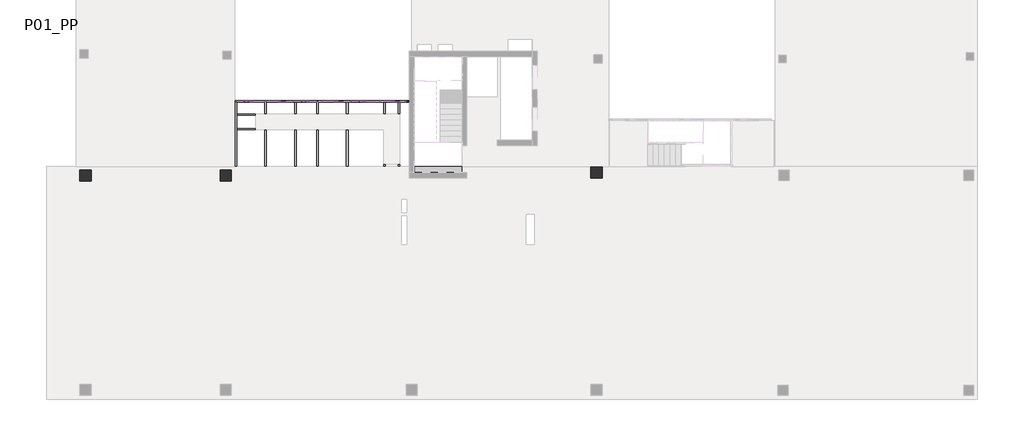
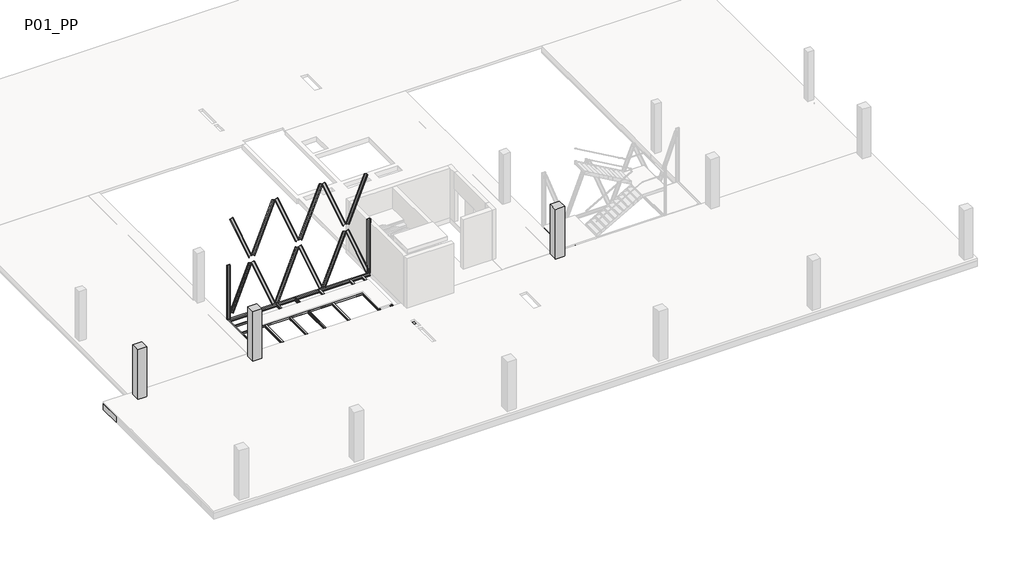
# One storey, part 2 of 8: 51 beams, 5 columns.
"""IFC4 building model written with IfcOpenShell, lengths in millimetres."""

from ifc_helpers import new_model, si_unit, frame, origin, place, context, project, spatial, polyline, circle_curve, outline, extrude, faceted_brep, transform, mapped, element, save
from ifc_brep_helpers import plane_surface, revolved_surface, advanced_brep
from components import ub_universal_beams_ipe_160x82_5295c27c, ub_universal_beams_ipe_160x82_633517aa, ub_universal_beams_ipe_200x100_3e5072df, ub_universal_beams_ipe_200x100_6cde27da, upn120x55_69f0bca1, upn120x55_efc8f615, upn120x55_2e91fe93, upn120x55_dd576345, upn120x55_d7d90911, upn200x75_a6df8eeb, upn200x75_22e62ea1, upn200x75_15f8b11e, upn200x75_1f64faac, upn200x75_e6c17937, upn200x75_5ddb06b6, upn200x75_7b6a578c, upn200x75_df23aae5, upn200x75_922ad74a, upn_200x75_fcc0ec56

model = new_model("IFC4")

# Units and contexts
model_context = context("Model", 3, world=origin())
ifc_project = project(units=[si_unit("LENGTHUNIT", "METRE", prefix="MILLI")], contexts=[model_context])

# Site, building, storey
site = spatial("IfcSite", under=ifc_project)
building = spatial("IfcBuilding", under=site)
storey = spatial("IfcBuildingStorey", under=building, Name="P01_PP", Elevation=11160.0)

# Beams
placement = place(None, origin())
element("IfcBeam", 1, ObjectType="M_Concrete-Rectangular Beam : 1500 x 550mm", at=placement, inside=storey, context=model_context, shape_type="AdvancedBrep", body=[
    advanced_brep(
    [(-10790.2146087, -4560.5861501, 11160.0), (-13390.3216429, -4560.5861501, 11160.0), (-13390.3216429, -4885.1039312, 11160.0), (-10790.2146087, -4885.1039312, 11160.0), (-33190.2931093, -6060.5861501, 10610.0), (-32490.2931093, -6060.5861501, 10610.0), (-31216.2708024, -6060.5861501, 10610.0), (-30816.2708024, -6060.5861501, 10610.0), (-29549.6041367, -6060.5861501, 10610.0), (-29149.6041367, -6060.5861501, 10610.0), (-27882.9374731, -6060.5861501, 10610.0), (-27482.9374731, -6060.5861501, 10610.0), (-26216.2708089, -6060.5861501, 10610.0), (-25816.2708089, -6060.5861501, 10610.0), (-24549.6041453, -6060.5861501, 10610.0), (-24149.6041453, -6060.5861501, 10610.0), (-22882.9374805, -6060.5861501, 10610.0), (-22482.9374805, -6060.5861501, 10610.0), (-21216.2708168, -6060.5861501, 10610.0), (-20816.2708168, -6060.5861501, 10610.0), (-19549.6041539, -6060.5861501, 10610.0), (-19149.6041539, -6060.5861501, 10610.0), (-17882.9374898, -6060.5861501, 10610.0), (-17482.9374898, -6060.5861501, 10610.0), (-16216.2708252, -6060.5861501, 10610.0), (-15816.2708252, -6060.5861501, 10610.0), (-14549.604161, -6060.5861501, 10610.0), (-14149.604161, -6060.5861501, 10610.0), (-12882.9374977, -6060.5861501, 10610.0), (-12482.9374977, -6060.5861501, 10610.0), (-11216.2708336, -6060.5861501, 10610.0), (-10816.2708336, -6060.5861501, 10610.0), (-9549.6041702, -6060.5861501, 10610.0), (-9149.6041702, -6060.5861501, 10610.0), (-7882.9375051, -6060.5861501, 10610.0), (-7482.9375051, -6060.5861501, 10610.0), (-6216.2708415, -6060.5861501, 10610.0), (-5816.2708415, -6060.5861501, 10610.0), (-4549.6041777, -6060.5861501, 10610.0), (-4149.6041777, -6060.5861501, 10610.0), (-2882.9375136, -6060.5861501, 10610.0), (-2482.9375136, -6060.5861501, 10610.0), (-1216.2708502, -6060.5861501, 10610.0), (-816.2708502, -6060.5861501, 10610.0), (450.3958139, -6060.5861501, 10610.0), (850.3958139, -6060.5861501, 10610.0), (2117.0624776, -6060.5861501, 10610.0), (2517.0624776, -6060.5861501, 10610.0), (3783.7291418, -6060.5861501, 10610.0), (4183.7291418, -6060.5861501, 10610.0), (5450.3958055, -6060.5861501, 10610.0), (5850.3958055, -6060.5861501, 10610.0), (7117.0624701, -6060.5861501, 10610.0), (7517.0624701, -6060.5861501, 10610.0), (8783.7291339, -6060.5861501, 10610.0), (9183.7291339, -6060.5861501, 10610.0), (10450.3957976, -6060.5861501, 10610.0), (10850.3957976, -6060.5861501, 10610.0), (12117.0624618, -6060.5861501, 10610.0), (12517.0624618, -6060.5861501, 10610.0), (13783.7291255, -6060.5861501, 10610.0), (14183.7291255, -6060.5861501, 10610.0), (15458.7687297, -6060.5861501, 10610.0), (15458.7687297, -6060.5861501, 11010.0), (14183.7291255, -6060.5861501, 11010.0), (13783.7291255, -6060.5861501, 11010.0), (12517.0624618, -6060.5861501, 11010.0), (12117.0624618, -6060.5861501, 11010.0), (10850.3957976, -6060.5861501, 11010.0), (10450.3957976, -6060.5861501, 11010.0), (9183.7291339, -6060.5861501, 11010.0), (8783.7291339, -6060.5861501, 11010.0), (7517.0624701, -6060.5861501, 11010.0), (7117.0624701, -6060.5861501, 11010.0), (5850.3958055, -6060.5861501, 11010.0), (5450.3958055, -6060.5861501, 11010.0), (4183.7291418, -6060.5861501, 11010.0), (3783.7291418, -6060.5861501, 11010.0), (2517.0624776, -6060.5861501, 11010.0), (2117.0624776, -6060.5861501, 11010.0), (850.3958139, -6060.5861501, 11010.0), (450.3958139, -6060.5861501, 11010.0), (-816.2708502, -6060.5861501, 11010.0), (-1216.2708502, -6060.5861501, 11010.0), (-2482.9375136, -6060.5861501, 11010.0), (-2882.9375136, -6060.5861501, 11010.0), (-4149.6041777, -6060.5861501, 11010.0), (-4549.6041777, -6060.5861501, 11010.0), (-5816.2708415, -6060.5861501, 11010.0), (-6216.2708415, -6060.5861501, 11010.0), (-7482.9375051, -6060.5861501, 11010.0), (-7882.9375051, -6060.5861501, 11010.0), (-9149.6041702, -6060.5861501, 11010.0), (-9549.6041702, -6060.5861501, 11010.0), (-10816.2708336, -6060.5861501, 11010.0), (-11216.2708336, -6060.5861501, 11010.0), (-12482.9374977, -6060.5861501, 11010.0), (-12882.9374977, -6060.5861501, 11010.0), (-14149.604161, -6060.5861501, 11010.0), (-14549.604161, -6060.5861501, 11010.0), (-15816.2708252, -6060.5861501, 11010.0), (-16216.2708252, -6060.5861501, 11010.0), (-17482.9374898, -6060.5861501, 11010.0), (-17882.9374898, -6060.5861501, 11010.0), (-19149.6041539, -6060.5861501, 11010.0), (-19549.6041539, -6060.5861501, 11010.0), (-20816.2708168, -6060.5861501, 11010.0), (-21216.2708168, -6060.5861501, 11010.0), (-22482.9374805, -6060.5861501, 11010.0), (-22882.9374805, -6060.5861501, 11010.0), (-24149.6041453, -6060.5861501, 11010.0), (-24549.6041453, -6060.5861501, 11010.0), (-25816.2708089, -6060.5861501, 11010.0), (-26216.2708089, -6060.5861501, 11010.0), (-27482.9374731, -6060.5861501, 11010.0), (-27882.9374731, -6060.5861501, 11010.0), (-29149.6041367, -6060.5861501, 11010.0), (-29549.6041367, -6060.5861501, 11010.0), (-30816.2708024, -6060.5861501, 11010.0), (-31216.2708024, -6060.5861501, 11010.0), (-32490.2931093, -6060.5861501, 11010.0), (-33190.2931093, -6060.5861501, 11010.0), (15458.7687297, -4560.5861501, 10610.0), (-33190.2931093, -4560.5861501, 10610.0), (-13640.3216429, -4560.5861501, 10610.0), (-13640.3216429, -5185.1039323, 10610.0), (-10540.3248425, -5185.1039323, 10610.0), (-10540.3248425, -4885.1039323, 10610.0), (-13390.3216429, -4885.1039323, 10610.0), (-13390.3216429, -4560.5861501, 10610.0), (-3697.7229413, -4560.5861501, 10610.0), (-3566.6085023, -5235.099638, 10610.0), (-3435.4940632, -4560.5861501, 10610.0), (6859.7220896, -5360.6051092, 10610.0), (6859.7220868, -4760.6051092, 10610.0), (6259.7220868, -4760.605112, 10610.0), (6259.7220896, -5360.605112, 10610.0), (-30741.2004174, -4760.5863522, 10610.0), (-31391.2004174, -4760.5863532, 10610.0), (-31391.2004164, -5410.5863532, 10610.0), (-30741.2004164, -5410.5863522, 10610.0), (-23891.1584445, -4760.5863697, 10610.0), (-23891.1584477, -5410.5863697, 10610.0), (-23241.1584477, -5410.586373, 10610.0), (-23241.1584445, -4760.586373, 10610.0), (-3435.4940632, -4560.5861501, 10860.0), (-3697.7229413, -4560.5861501, 10860.0), (-13390.3216429, -4560.5861501, 10860.0), (-13640.3216429, -4560.5861501, 10860.0), (-33190.2931093, -4560.5861501, 11010.0), (-13390.3216429, -4560.5861501, 11010.0), (-10790.2146087, -4560.5861501, 11010.0), (15458.7687297, -4560.5861501, 11010.0), (6859.7220896, -5360.6051092, 10860.0), (6859.7220868, -4760.6051092, 10860.0), (6259.7220896, -5360.605112, 10860.0), (6259.7220868, -4760.605112, 10860.0), (-30741.2004174, -4760.5863522, 10860.0), (-31391.2004174, -4760.5863532, 10860.0), (-30741.2004164, -5410.5863522, 10860.0), (-31391.2004164, -5410.5863532, 10860.0), (-23891.1584445, -4760.5863697, 10860.0), (-23891.1584477, -5410.5863697, 10860.0), (-23241.1584445, -4760.586373, 10860.0), (-23241.1584477, -5410.586373, 10860.0), (-3566.6085023, -5235.099638, 10860.0), (-10540.3248425, -4885.1039323, 10860.0), (-13390.3216429, -4885.1039323, 10860.0), (-13640.3216429, -5185.1039323, 10860.0), (-10540.3248425, -5185.1039323, 10860.0), (-13640.3216429, -4885.1039323, 10860.0), (-13390.3216429, -4885.1039312, 11010.0), (-10790.2146087, -4885.1039312, 11010.0)],
    [
        (0, 1),
        (1, 2),
        (2, 3),
        (3, 0),
        (4, 5),
        (5, 6),
        (6, 7),
        (7, 8),
        (8, 9),
        (9, 10),
        (10, 11),
        (11, 12),
        (12, 13),
        (13, 14),
        (14, 15),
        (15, 16),
        (16, 17),
        (17, 18),
        (18, 19),
        (19, 20),
        (20, 21),
        (21, 22),
        (22, 23),
        (23, 24),
        (24, 25),
        (25, 26),
        (26, 27),
        (27, 28),
        (28, 29),
        (29, 30),
        (30, 31),
        (31, 32),
        (32, 33),
        (33, 34),
        (34, 35),
        (35, 36),
        (36, 37),
        (37, 38),
        (38, 39),
        (39, 40),
        (40, 41),
        (41, 42),
        (42, 43),
        (43, 44),
        (44, 45),
        (45, 46),
        (46, 47),
        (47, 48),
        (48, 49),
        (49, 50),
        (50, 51),
        (51, 52),
        (52, 53),
        (53, 54),
        (54, 55),
        (55, 56),
        (56, 57),
        (57, 58),
        (58, 59),
        (59, 60),
        (60, 61),
        (61, 62),
        (62, 63),
        (63, 64),
        (64, 65),
        (65, 66),
        (66, 67),
        (67, 68),
        (68, 69),
        (69, 70),
        (70, 71),
        (71, 72),
        (72, 73),
        (73, 74),
        (74, 75),
        (75, 76),
        (76, 77),
        (77, 78),
        (78, 79),
        (79, 80),
        (80, 81),
        (81, 82),
        (82, 83),
        (83, 84),
        (84, 85),
        (85, 86),
        (86, 87),
        (87, 88),
        (88, 89),
        (89, 90),
        (90, 91),
        (91, 92),
        (92, 93),
        (93, 94),
        (94, 95),
        (95, 96),
        (96, 97),
        (97, 98),
        (98, 99),
        (99, 100),
        (100, 101),
        (101, 102),
        (102, 103),
        (103, 104),
        (104, 105),
        (105, 106),
        (106, 107),
        (107, 108),
        (108, 109),
        (109, 110),
        (110, 111),
        (111, 112),
        (112, 113),
        (113, 114),
        (114, 115),
        (115, 116),
        (116, 117),
        (117, 118),
        (118, 119),
        (119, 120),
        (120, 121),
        (121, 4),
        (122, 62),
        (4, 123),
        (123, 124),
        (124, 125),
        (125, 126),
        (126, 127),
        (127, 128),
        (128, 129),
        (129, 130),
        (130, 131, circle_curve(frame((-3566.6085023, -4885.099638, 10610.0), z_axis=(0.0, 0.0, 1.0), x_axis=(0.0, -1.0, 0.0)), 350.0)),
        (131, 132, circle_curve(frame((-3566.6085023, -4885.099638, 10610.0), z_axis=(0.0, 0.0, 1.0), x_axis=(0.0, -1.0, 0.0)), 350.0)),
        (132, 122),
        (133, 134),
        (134, 135),
        (135, 136),
        (136, 133),
        (137, 138),
        (138, 139),
        (139, 140),
        (140, 137),
        (141, 142),
        (142, 143),
        (143, 144),
        (144, 141),
        (132, 145),
        (145, 146),
        (146, 130),
        (129, 147),
        (147, 148),
        (148, 124),
        (123, 149),
        (149, 150),
        (150, 1),
        (0, 151),
        (151, 152),
        (152, 122),
        (152, 63),
        (121, 149),
        (153, 154),
        (154, 134),
        (133, 153),
        (155, 153),
        (136, 155),
        (156, 155),
        (135, 156),
        (154, 156),
        (157, 158),
        (158, 138),
        (137, 157),
        (159, 157),
        (140, 159),
        (160, 159),
        (139, 160),
        (158, 160),
        (161, 162),
        (162, 142),
        (141, 161),
        (163, 161),
        (144, 163),
        (164, 163),
        (143, 164),
        (162, 164),
        (131, 165),
        (165, 145, circle_curve(frame((-3566.6085023, -4885.099638, 10860.0), z_axis=(0.0, 0.0, 1.0), x_axis=(0.0, -1.0, 0.0)), 350.0)),
        (146, 165, circle_curve(frame((-3566.6085023, -4885.099638, 10860.0), z_axis=(0.0, 0.0, 1.0), x_axis=(0.0, -1.0, 0.0)), 350.0)),
        (127, 166),
        (166, 167),
        (167, 128),
        (168, 169),
        (169, 126),
        (125, 168),
        (168, 170),
        (170, 148),
        (147, 167),
        (166, 169),
        (171, 150),
        (151, 172),
        (172, 171),
        (3, 172),
        (171, 2),
    ],
    [
        plane_surface(frame((-32477.5931093, -5310.5861501, 11160.0), z_axis=(0.0, 0.0, 1.0), x_axis=(0.0, -1.0, 0.0))),
        plane_surface(frame((-32477.5931093, -6060.5861501, 10885.0), z_axis=(0.0, -1.0, 0.0), x_axis=(0.0, 0.0, -1.0))),
        plane_surface(frame((-32477.5931093, -5310.5861501, 10610.0), z_axis=(0.0, 0.0, -1.0), x_axis=(0.0, 1.0, 0.0))),
        plane_surface(frame((-32477.5931093, -4560.5861501, 10885.0), z_axis=(0.0, 1.0, 0.0), x_axis=(0.0, 0.0, 1.0))),
        plane_surface(frame((15458.7687297, -6073.2861501, 10610.0), z_axis=(1.0, 0.0, 0.0), x_axis=(0.0, -1.0, 0.0))),
        plane_surface(frame((-33190.2931093, -6084.5152336, 11160.0), z_axis=(-1.0, 0.0, 0.0), x_axis=(0.0, 1.0, 0.0))),
        plane_surface(frame((6859.7220896, -5360.6051092, 10860.0), z_axis=(-1.0, -4.690811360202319e-09, 0.0), x_axis=(0.0, 0.0, -1.0))),
        plane_surface(frame((6259.7220896, -5360.605112, 10860.0), z_axis=(-4.690811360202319e-09, 1.0, 0.0), x_axis=(0.0, 0.0, -1.0))),
        plane_surface(frame((6259.7220868, -4760.605112, 10860.0), z_axis=(1.0, 4.690811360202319e-09, 0.0), x_axis=(0.0, 0.0, -1.0))),
        plane_surface(frame((6859.7220868, -4760.6051092, 10860.0), z_axis=(4.690811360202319e-09, -1.0, 0.0), x_axis=(0.0, 0.0, -1.0))),
        plane_surface(frame((6259.7220868, -4760.605112, 10860.0), z_axis=(0.0, 0.0, -1.0), x_axis=(-1.0, -4.690811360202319e-09, 0.0))),
        plane_surface(frame((-30741.2004174, -4760.5863522, 10860.0), z_axis=(1.4073714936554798e-09, -1.0, 0.0), x_axis=(0.0, 0.0, -1.0))),
        plane_surface(frame((-30741.2004164, -5410.5863522, 10860.0), z_axis=(-1.0, -1.4073714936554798e-09, 0.0), x_axis=(0.0, 0.0, -1.0))),
        plane_surface(frame((-31391.2004164, -5410.5863532, 10860.0), z_axis=(-1.4073714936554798e-09, 1.0, 0.0), x_axis=(0.0, 0.0, -1.0))),
        plane_surface(frame((-31391.2004174, -4760.5863532, 10860.0), z_axis=(1.0, 1.4073714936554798e-09, 0.0), x_axis=(0.0, 0.0, -1.0))),
        plane_surface(frame((-31391.2004164, -5410.5863532, 10860.0), z_axis=(0.0, 0.0, -1.0), x_axis=(1.4073714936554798e-09, -1.0, 0.0))),
        plane_surface(frame((-23891.1584445, -4760.5863697, 10860.0), z_axis=(1.0, -5.040414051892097e-09, 0.0), x_axis=(0.0, 0.0, -1.0))),
        plane_surface(frame((-23241.1584445, -4760.586373, 10860.0), z_axis=(-5.040414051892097e-09, -1.0, 0.0), x_axis=(0.0, 0.0, -1.0))),
        plane_surface(frame((-23241.1584477, -5410.586373, 10860.0), z_axis=(-1.0, 5.040414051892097e-09, 0.0), x_axis=(0.0, 0.0, -1.0))),
        plane_surface(frame((-23891.1584477, -5410.5863697, 10860.0), z_axis=(5.040414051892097e-09, 1.0, 0.0), x_axis=(0.0, 0.0, -1.0))),
        plane_surface(frame((-23241.1584477, -5410.586373, 10860.0), z_axis=(0.0, 0.0, -1.0), x_axis=(1.0, -5.040414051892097e-09, 0.0))),
        revolved_surface(polyline([(-3566.6085023, -5235.099638, 10860.0), (-3566.6085023, -5235.099638, 10610.0)]), (-3566.6085023, -4885.099638, 7100.0), (0.0, 0.0, 1.0)),
        plane_surface(frame((-3566.6085023, -5235.099638, 10860.0), z_axis=(0.0, 0.0, -1.0), x_axis=(1.0, 0.0, 0.0))),
        plane_surface(frame((-6768.0443807, -4885.1039323, 7100.0), z_axis=(0.0, -1.0, 0.0), x_axis=(-1.0, 0.0, 0.0))),
        plane_surface(frame((-6768.0443807, -5185.1039323, 7100.0), z_axis=(0.0, 1.0, 0.0), x_axis=(1.0, 0.0, 0.0))),
        plane_surface(frame((-13515.3216429, -4885.1039323, 10860.0), z_axis=(0.0, 0.0, -1.0), x_axis=(0.0, -1.0, 0.0))),
        plane_surface(frame((-10540.3248425, -4885.1039323, 10860.0), z_axis=(-1.0, 0.0, 0.0), x_axis=(0.0, -1.0, 0.0))),
        plane_surface(frame((-13640.3216429, -4885.103931, 7100.0), z_axis=(1.0, 0.0, 0.0), x_axis=(0.0, -1.0, 0.0))),
        plane_surface(frame((-13390.3216429, -4885.103931, 7100.0), z_axis=(-1.0, 0.0, 0.0), x_axis=(0.0, 1.0, 0.0))),
        plane_surface(frame((-33190.2931093, -4560.5861796, 11010.0), z_axis=(0.0, 0.0, 1.0), x_axis=(0.0, 1.0, 0.0))),
        plane_surface(frame((-10790.2146087, -4885.1039312, 41314.8), z_axis=(1.0, 0.0, 0.0), x_axis=(0.0, 0.0, -1.0))),
        plane_surface(frame((-13390.3216429, 1364.8960692, 41314.8), z_axis=(-1.0, 0.0, 0.0), x_axis=(0.0, 0.0, -1.0))),
        plane_surface(frame((-13390.3216429, -4885.1039312, 41314.8), z_axis=(0.0, -1.0, 0.0), x_axis=(0.0, 0.0, -1.0))),
    ],
    [
        (0, [[1, 2, 3, 4]]),
        (1, [[5, 6, 7, 8, 9, 10, 11, 12, 13, 14, 15, 16, 17, 18, 19, 20, 21, 22, 23, 24, 25, 26, 27, 28, 29, 30, 31, 32, 33, 34, 35, 36, 37, 38, 39, 40, 41, 42, 43, 44, 45, 46, 47, 48, 49, 50, 51, 52, 53, 54, 55, 56, 57, 58, 59, 60, 61, 62, 63, 64, 65, 66, 67, 68, 69, 70, 71, 72, 73, 74, 75, 76, 77, 78, 79, 80, 81, 82, 83, 84, 85, 86, 87, 88, 89, 90, 91, 92, 93, 94, 95, 96, 97, 98, 99, 100, 101, 102, 103, 104, 105, 106, 107, 108, 109, 110, 111, 112, 113, 114, 115, 116, 117, 118, 119, 120, 121, 122]]),
        (2, [[123, -62, -61, -60, -59, -58, -57, -56, -55, -54, -53, -52, -51, -50, -49, -48, -47, -46, -45, -44, -43, -42, -41, -40, -39, -38, -37, -36, -35, -34, -33, -32, -31, -30, -29, -28, -27, -26, -25, -24, -23, -22, -21, -20, -19, -18, -17, -16, -15, -14, -13, -12, -11, -10, -9, -8, -7, -6, -5, 124, 125, 126, 127, 128, 129, 130, 131, 132, 133, 134], [135, 136, 137, 138], [139, 140, 141, 142], [143, 144, 145, 146]]),
        (3, [[-134, 147, 148, 149, -131, 150, 151, 152, -125, 153, 154, 155, -1, 156, 157, 158]]),
        (4, [[-123, -158, 159, -63]]),
        (5, [[-124, -122, 160, -153]]),
        (6, [[161, 162, -135, 163]]),
        (7, [[164, -163, -138, 165]]),
        (8, [[166, -165, -137, 167]]),
        (9, [[168, -167, -136, -162]]),
        (10, [[-161, -164, -166, -168]]),
        (11, [[169, 170, -139, 171]]),
        (12, [[172, -171, -142, 173]]),
        (13, [[174, -173, -141, 175]]),
        (14, [[176, -175, -140, -170]]),
        (15, [[-169, -172, -174, -176]]),
        (16, [[177, 178, -143, 179]]),
        (17, [[180, -179, -146, 181]]),
        (18, [[182, -181, -145, 183]]),
        (19, [[184, -183, -144, -178]]),
        (20, [[-177, -180, -182, -184]]),
        (21, [[185, 186, -147, -133]]),
        (21, [[-185, -132, -149, 187]]),
        (22, [[-186, -187, -148]]),
        (23, [[188, 189, 190, -129]]),
        (24, [[191, 192, -127, 193]]),
        (25, [[-191, 194, 195, -151, 196, -189, 197]]),
        (26, [[-197, -188, -128, -192]]),
        (27, [[-193, -126, -152, -195, -194]]),
        (28, [[-196, -150, -130, -190]]),
        (29, [[198, -154, -160, -121, -120, -119, -118, -117, -116, -115, -114, -113, -112, -111, -110, -109, -108, -107, -106, -105, -104, -103, -102, -101, -100, -99, -98, -97, -96, -95, -94, -93, -92, -91, -90, -89, -88, -87, -86, -85, -84, -83, -82, -81, -80, -79, -78, -77, -76, -75, -74, -73, -72, -71, -70, -69, -68, -67, -66, -65, -64, -159, -157, 199, 200]]),
        (30, [[-199, -156, -4, 201]]),
        (31, [[-198, 202, -2, -155]]),
        (32, [[-200, -201, -3, -202]]),
    ],
),
])
element("IfcBeam", 2, ObjectType="M_Concrete-Rectangular Beam : 400 x 550mm", at=placement, inside=storey, context=model_context, shape_type="SweptSolid", body=[
    extrude(outline(polyline([(-25816.2708089, -15610.5871866), (-26216.2708089, -15610.5871866), (-26216.2708089, -6060.5861501), (-25816.2708089, -6060.5861501), (-25816.2708089, -15610.5871866)])), frame((0.0, 0.0, 10610.0), z_axis=(0.0, 0.0, 1.0), x_axis=(1.0, 0.0, 0.0)), (0.0, 0.0, 1.0), 400.0),
])
element("IfcBeam", 3, ObjectType="M_Concrete-Rectangular Beam : 400 x 550mm", at=placement, inside=storey, context=model_context, shape_type="SweptSolid", body=[
    extrude(outline(polyline([(-24149.6041453, -15610.5871866), (-24549.6041453, -15610.5871866), (-24549.6041453, -6060.5861501), (-24149.6041453, -6060.5861501), (-24149.6041453, -15610.5871866)])), frame((0.0, 0.0, 10610.0), z_axis=(0.0, 0.0, 1.0), x_axis=(1.0, 0.0, 0.0)), (0.0, 0.0, 1.0), 400.0),
])
element("IfcBeam", 4, ObjectType="M_Concrete-Rectangular Beam : 400 x 550mm", at=placement, inside=storey, context=model_context, shape_type="SweptSolid", body=[
    extrude(outline(polyline([(-22482.9374805, -15610.5871866), (-22882.9374805, -15610.5871866), (-22882.9374805, -6060.5861501), (-22482.9374805, -6060.5861501), (-22482.9374805, -15610.5871866)])), frame((0.0, 0.0, 10610.0), z_axis=(0.0, 0.0, 1.0), x_axis=(1.0, 0.0, 0.0)), (0.0, 0.0, 1.0), 400.0),
])
element("IfcBeam", 5, ObjectType="M_Concrete-Rectangular Beam : 400 x 550mm", at=placement, inside=storey, context=model_context, shape_type="SweptSolid", body=[
    extrude(outline(polyline([(-20816.2708168, -15610.5871866), (-21216.2708168, -15610.5871866), (-21216.2708168, -6060.5861501), (-20816.2708168, -6060.5861501), (-20816.2708168, -15610.5871866)])), frame((0.0, 0.0, 10610.0), z_axis=(0.0, 0.0, 1.0), x_axis=(1.0, 0.0, 0.0)), (0.0, 0.0, 1.0), 400.0),
])
element("IfcBeam", 6, ObjectType="M_Concrete-Rectangular Beam : 400 x 550mm", at=placement, inside=storey, context=model_context, shape_type="SweptSolid", body=[
    extrude(outline(polyline([(-19149.6041539, -15610.5871866), (-19549.6041539, -15610.5871866), (-19549.6041539, -6060.5861501), (-19149.6041539, -6060.5861501), (-19149.6041539, -15610.5871866)])), frame((0.0, 0.0, 10610.0), z_axis=(0.0, 0.0, 1.0), x_axis=(1.0, 0.0, 0.0)), (0.0, 0.0, 1.0), 400.0),
])
element("IfcBeam", 7, ObjectType="M_Concrete-Rectangular Beam : 400 x 550mm", at=placement, inside=storey, context=model_context, shape_type="SweptSolid", body=[
    extrude(outline(polyline([(-17482.9374898, -15610.5871866), (-17882.9374898, -15610.5871866), (-17882.9374898, -6060.5861501), (-17482.9374898, -6060.5861501), (-17482.9374898, -15610.5871866)])), frame((0.0, 0.0, 10610.0), z_axis=(0.0, 0.0, 1.0), x_axis=(1.0, 0.0, 0.0)), (0.0, 0.0, 1.0), 400.0),
])
element("IfcBeam", 8, ObjectType="M_Concrete-Rectangular Beam : 400 x 550mm", at=placement, inside=storey, context=model_context, shape_type="SweptSolid", body=[
    extrude(outline(polyline([(-15816.2708252, -15610.5871866), (-16216.2708252, -15610.5871866), (-16216.2708252, -6060.5861501), (-15816.2708252, -6060.5861501), (-15816.2708252, -15610.5871866)])), frame((0.0, 0.0, 10610.0), z_axis=(0.0, 0.0, 1.0), x_axis=(1.0, 0.0, 0.0)), (0.0, 0.0, 1.0), 400.0),
])
element("IfcBeam", 9, ObjectType="M_Concrete-Rectangular Beam : 400 x 550mm", at=placement, inside=storey, context=model_context, shape_type="SweptSolid", body=[
    extrude(outline(polyline([(-14149.604161, -15610.5871866), (-14549.604161, -15610.5871866), (-14549.604161, -6060.5861501), (-14149.604161, -6060.5861501), (-14149.604161, -15610.5871866)])), frame((0.0, 0.0, 10610.0), z_axis=(0.0, 0.0, 1.0), x_axis=(1.0, 0.0, 0.0)), (0.0, 0.0, 1.0), 400.0),
])
element("IfcBeam", 10, ObjectType="M_Concrete-Rectangular Beam : 400 x 550mm", at=placement, inside=storey, context=model_context, shape_type="SweptSolid", body=[
    extrude(outline(polyline([(-12482.9374977, -15610.5871866), (-12882.9374977, -15610.5871866), (-12882.9374977, -6060.5861501), (-12482.9374977, -6060.5861501), (-12482.9374977, -15610.5871866)])), frame((0.0, 0.0, 10610.0), z_axis=(0.0, 0.0, 1.0), x_axis=(1.0, 0.0, 0.0)), (0.0, 0.0, 1.0), 400.0),
])
element("IfcBeam", 11, ObjectType="M_Concrete-Rectangular Beam : 400 x 550mm", at=placement, inside=storey, context=model_context, shape_type="SweptSolid", body=[
    extrude(outline(polyline([(-10816.2708336, -15610.5871866), (-11216.2708336, -15610.5871866), (-11216.2708336, -6060.5861501), (-10816.2708336, -6060.5861501), (-10816.2708336, -15610.5871866)])), frame((0.0, 0.0, 10610.0), z_axis=(0.0, 0.0, 1.0), x_axis=(1.0, 0.0, 0.0)), (0.0, 0.0, 1.0), 400.0),
])
element("IfcBeam", 12, ObjectType="M_Concrete-Rectangular Beam : 400 x 550mm", at=placement, inside=storey, context=model_context, shape_type="SweptSolid", body=[
    extrude(outline(polyline([(-9149.6041702, -15610.5871866), (-9549.6041702, -15610.5871866), (-9549.6041702, -6060.5861501), (-9149.6041702, -6060.5861501), (-9149.6041702, -15610.5871866)])), frame((0.0, 0.0, 10610.0), z_axis=(0.0, 0.0, 1.0), x_axis=(1.0, 0.0, 0.0)), (0.0, 0.0, 1.0), 400.0),
])
element("IfcBeam", 13, ObjectType="M_Concrete-Rectangular Beam : 400 x 550mm", at=placement, inside=storey, context=model_context, shape_type="SweptSolid", body=[
    extrude(outline(polyline([(-7482.9375051, -15610.5871866), (-7882.9375051, -15610.5871866), (-7882.9375051, -6060.5861501), (-7482.9375051, -6060.5861501), (-7482.9375051, -15610.5871866)])), frame((0.0, 0.0, 10610.0), z_axis=(0.0, 0.0, 1.0), x_axis=(1.0, 0.0, 0.0)), (0.0, 0.0, 1.0), 400.0),
])
element("IfcBeam", 14, ObjectType="M_Concrete-Rectangular Beam : 400 x 550mm", at=placement, inside=storey, context=model_context, shape_type="SweptSolid", body=[
    extrude(outline(polyline([(-5816.2708415, -15610.5871866), (-6216.2708415, -15610.5871866), (-6216.2708415, -6060.5861501), (-5816.2708415, -6060.5861501), (-5816.2708415, -15610.5871866)])), frame((0.0, 0.0, 10610.0), z_axis=(0.0, 0.0, 1.0), x_axis=(1.0, 0.0, 0.0)), (0.0, 0.0, 1.0), 400.0),
])
element("IfcBeam", 15, ObjectType="M_Concrete-Rectangular Beam : 400 x 550mm", at=placement, inside=storey, context=model_context, shape_type="SweptSolid", body=[
    extrude(outline(polyline([(-4149.6041777, -15610.5871866), (-4549.6041777, -15610.5871866), (-4549.6041777, -6060.5861501), (-4149.6041777, -6060.5861501), (-4149.6041777, -15610.5871866)])), frame((0.0, 0.0, 10610.0), z_axis=(0.0, 0.0, 1.0), x_axis=(1.0, 0.0, 0.0)), (0.0, 0.0, 1.0), 400.0),
])
element("IfcBeam", 16, ObjectType="M_Concrete-Rectangular Beam : 400 x 550mm", at=placement, inside=storey, context=model_context, shape_type="SweptSolid", body=[
    extrude(outline(polyline([(-2482.9375136, -15610.5871866), (-2882.9375136, -15610.5871866), (-2882.9375136, -6060.5861501), (-2482.9375136, -6060.5861501), (-2482.9375136, -15610.5871866)])), frame((0.0, 0.0, 10610.0), z_axis=(0.0, 0.0, 1.0), x_axis=(1.0, 0.0, 0.0)), (0.0, 0.0, 1.0), 400.0),
])
element("IfcBeam", 17, ObjectType="M_Concrete-Rectangular Beam : 400 x 550mm", at=placement, inside=storey, context=model_context, shape_type="SweptSolid", body=[
    extrude(outline(polyline([(-816.2708502, -15610.5871866), (-1216.2708502, -15610.5871866), (-1216.2708502, -6060.5861501), (-816.2708502, -6060.5861501), (-816.2708502, -15610.5871866)])), frame((0.0, 0.0, 10610.0), z_axis=(0.0, 0.0, 1.0), x_axis=(1.0, 0.0, 0.0)), (0.0, 0.0, 1.0), 400.0),
])
ub_universal_beams_ipe_160x82_shape = ub_universal_beams_ipe_160x82_5295c27c(model_context)
element("IfcBeam", 18, ObjectType="UB-Universal Beams : IPE 160x82", at=placement, inside=storey, context=model_context, shape_type="MappedRepresentation", body=[
    mapped(ub_universal_beams_ipe_160x82_shape, transform((-14190.4459331, -3192.6367352, 11080.0), x_axis=(0.0, 1.0, 0.0), y_axis=(-1.0, 0.0, 0.0), z_axis=(0.0, 0.0, 1.0))),
])
element("IfcBeam", 19, ObjectType="UB-Universal Beams : IPE 160x82", at=placement, inside=storey, context=model_context, shape_type="MappedRepresentation", body=[
    mapped(ub_universal_beams_ipe_160x82_shape, transform((-14990.4459326, -3192.6367225, 11080.0), x_axis=(0.0, 1.0, 0.0), y_axis=(-1.0, 0.0, 0.0), z_axis=(0.0, 0.0, 1.0))),
])
element("IfcBeam", 20, ObjectType="UB-Universal Beams : IPE 160x82", at=placement, inside=storey, context=model_context, shape_type="MappedRepresentation", body=[
    mapped(ub_universal_beams_ipe_160x82_shape, transform((-16990.4459316, -3192.6366908, 11080.0), x_axis=(0.0, 1.0, 0.0), y_axis=(-1.0, 0.0, 0.0), z_axis=(0.0, 0.0, 1.0))),
])
element("IfcBeam", 21, ObjectType="UB-Universal Beams : IPE 160x82", at=placement, inside=storey, context=model_context, shape_type="MappedRepresentation", body=[
    mapped(ub_universal_beams_ipe_160x82_shape, transform((-18590.4459308, -3192.6366654, 11080.0), x_axis=(0.0, 1.0, 0.0), y_axis=(-1.0, 0.0, 0.0), z_axis=(0.0, 0.0, 1.0))),
])
element("IfcBeam", 22, ObjectType="UB-Universal Beams : IPE 160x82", at=placement, inside=storey, context=model_context, shape_type="MappedRepresentation", body=[
    mapped(ub_universal_beams_ipe_160x82_shape, transform((-19790.4459314, -3192.6366464, 11080.0), x_axis=(0.0, 1.0, 0.0), y_axis=(-1.0, 0.0, 0.0), z_axis=(0.0, 0.0, 1.0))),
])
element("IfcBeam", 23, ObjectType="UB-Universal Beams : IPE 160x82", at=placement, inside=storey, context=model_context, shape_type="MappedRepresentation", body=[
    mapped(ub_universal_beams_ipe_160x82_shape, transform((-21390.4459306, -3192.636621, 11080.0), x_axis=(0.0, 1.0, 0.0), y_axis=(-1.0, 0.0, 0.0), z_axis=(0.0, 0.0, 1.0))),
])
ub_universal_beams_ipe_160x82_2_shape = ub_universal_beams_ipe_160x82_633517aa(model_context)
element("IfcBeam", 24, ObjectType="UB-Universal Beams : IPE 160x82", at=placement, inside=storey, context=model_context, shape_type="MappedRepresentation", body=[
    mapped(ub_universal_beams_ipe_160x82_2_shape, transform((-22991.1860553, -3192.6365957, 11080.0), x_axis=(0.0, 1.0, 0.0), y_axis=(-1.0, 0.0, 0.0), z_axis=(0.0, 0.0, 1.0))),
])
ub_universal_beams_ipe_200x100_shape = ub_universal_beams_ipe_200x100_3e5072df(model_context)
element("IfcBeam", 25, ObjectType="UB-Universal Beams : IPE 200x100", at=placement, inside=storey, context=model_context, shape_type="MappedRepresentation", body=[
    mapped(ub_universal_beams_ipe_200x100_shape, transform((-2811.4958562, -3692.7091099, 11060.0), x_axis=(0.0, 1.0, 0.0), y_axis=(-1.0, 0.0, 0.0), z_axis=(0.0, 0.0, 1.0))),
])
ub_universal_beams_ipe_200x100_2_shape = ub_universal_beams_ipe_200x100_6cde27da(model_context)
element("IfcBeam", 26, ObjectType="UB-Universal Beams : IPE 200x100", at=placement, inside=storey, context=model_context, shape_type="MappedRepresentation", body=[
    mapped(ub_universal_beams_ipe_200x100_2_shape, transform((-2161.4958562, -3698.1725705, 11060.0), x_axis=(0.0, 1.0, 0.0), y_axis=(-1.0, 0.0, 0.0), z_axis=(0.0, 0.0, 1.0))),
])
upn120x55_shape = upn120x55_69f0bca1(model_context)
element("IfcBeam", 27, ObjectType="M_MC Shapes : UPN120x55", at=placement, inside=storey, context=model_context, shape_type="MappedRepresentation", body=[
    mapped(upn120x55_shape, transform((-14590.4459328, -1772.1875003, 11100.0), x_axis=(0.9999999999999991, -4.319868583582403e-08, 0.0), y_axis=(4.319868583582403e-08, 0.9999999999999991, 0.0), z_axis=(0.0, 0.0, 1.0))),
])
element("IfcBeam", 28, ObjectType="M_MC Shapes : UPN120x55", at=placement, inside=storey, context=model_context, shape_type="MappedRepresentation", body=[
    mapped(upn120x55_shape, transform((-14590.4459328, -2572.1874803, 11100.0), x_axis=(0.9999999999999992, -4.0441322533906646e-08, 0.0), y_axis=(4.0441322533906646e-08, 0.9999999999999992, 0.0), z_axis=(0.0, 0.0, 1.0))),
])
upn120x55_2_shape = upn120x55_efc8f615(model_context)
element("IfcBeam", 29, ObjectType="M_MC Shapes : UPN120x55", at=placement, inside=storey, context=model_context, shape_type="MappedRepresentation", body=[
    mapped(upn120x55_2_shape, transform((-15990.4459321, -2572.1874237, 11100.0), x_axis=(0.9999999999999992, -4.0441322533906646e-08, 0.0), y_axis=(4.0441322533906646e-08, 0.9999999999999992, 0.0), z_axis=(0.0, 0.0, 1.0))),
])
element("IfcBeam", 30, ObjectType="M_MC Shapes : UPN120x55", at=placement, inside=storey, context=model_context, shape_type="MappedRepresentation", body=[
    mapped(upn120x55_2_shape, transform((-15990.4459321, -1772.1874398, 11100.0), x_axis=(0.9999999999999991, -4.319868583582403e-08, 0.0), y_axis=(4.319868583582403e-08, 0.9999999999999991, 0.0), z_axis=(0.0, 0.0, 1.0))),
])
upn120x55_3_shape = upn120x55_2e91fe93(model_context)
element("IfcBeam", 31, ObjectType="M_MC Shapes : UPN120x55", at=placement, inside=storey, context=model_context, shape_type="MappedRepresentation", body=[
    mapped(upn120x55_3_shape, transform((-20590.445931, -2572.1872377, 11100.0), x_axis=(0.9999999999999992, -4.0441322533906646e-08, 0.0), y_axis=(4.0441322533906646e-08, 0.9999999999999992, 0.0), z_axis=(0.0, 0.0, 1.0))),
])
element("IfcBeam", 32, ObjectType="M_MC Shapes : UPN120x55", at=placement, inside=storey, context=model_context, shape_type="MappedRepresentation", body=[
    mapped(upn120x55_3_shape, transform((-17790.4459312, -2572.1873509, 11100.0), x_axis=(0.9999999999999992, -4.0441322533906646e-08, 0.0), y_axis=(4.0441322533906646e-08, 0.9999999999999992, 0.0), z_axis=(0.0, 0.0, 1.0))),
])
element("IfcBeam", 33, ObjectType="M_MC Shapes : UPN120x55", at=placement, inside=storey, context=model_context, shape_type="MappedRepresentation", body=[
    mapped(upn120x55_3_shape, transform((-20590.445931, -1772.1872411, 11100.0), x_axis=(0.9999999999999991, -4.319868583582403e-08, 0.0), y_axis=(4.319868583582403e-08, 0.9999999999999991, 0.0), z_axis=(0.0, 0.0, 1.0))),
])
element("IfcBeam", 34, ObjectType="M_MC Shapes : UPN120x55", at=placement, inside=storey, context=model_context, shape_type="MappedRepresentation", body=[
    mapped(upn120x55_3_shape, transform((-17790.4459312, -1772.1873621, 11100.0), x_axis=(0.9999999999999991, -4.319868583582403e-08, 0.0), y_axis=(4.319868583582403e-08, 0.9999999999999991, 0.0), z_axis=(0.0, 0.0, 1.0))),
])
upn120x55_4_shape = upn120x55_dd576345(model_context)
element("IfcBeam", 35, ObjectType="M_MC Shapes : UPN120x55", at=placement, inside=storey, context=model_context, shape_type="MappedRepresentation", body=[
    mapped(upn120x55_4_shape, transform((-19190.4459311, -2572.1872943, 11100.0), x_axis=(0.9999999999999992, -4.0441322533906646e-08, 0.0), y_axis=(4.0441322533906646e-08, 0.9999999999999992, 0.0), z_axis=(0.0, 0.0, 1.0))),
])
element("IfcBeam", 36, ObjectType="M_MC Shapes : UPN120x55", at=placement, inside=storey, context=model_context, shape_type="MappedRepresentation", body=[
    mapped(upn120x55_4_shape, transform((-19190.4459311, -1772.1873016, 11100.0), x_axis=(0.9999999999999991, -4.319868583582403e-08, 0.0), y_axis=(4.319868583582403e-08, 0.9999999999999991, 0.0), z_axis=(0.0, 0.0, 1.0))),
])
upn120x55_5_shape = upn120x55_d7d90911(model_context)
element("IfcBeam", 37, ObjectType="M_MC Shapes : UPN120x55", at=placement, inside=storey, context=model_context, shape_type="MappedRepresentation", body=[
    mapped(upn120x55_5_shape, transform((-22165.4459321, -2572.187174, 11100.0), x_axis=(0.9999999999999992, -4.0441322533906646e-08, 0.0), y_axis=(4.0441322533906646e-08, 0.9999999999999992, 0.0), z_axis=(0.0, 0.0, 1.0))),
])
element("IfcBeam", 38, ObjectType="M_MC Shapes : UPN120x55", at=placement, inside=storey, context=model_context, shape_type="MappedRepresentation", body=[
    mapped(upn120x55_5_shape, transform((-22165.4459321, -1772.1871731, 11100.0), x_axis=(0.9999999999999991, -4.319868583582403e-08, 0.0), y_axis=(4.319868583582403e-08, 0.9999999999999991, 0.0), z_axis=(0.0, 0.0, 1.0))),
])
upn200x75_shape = upn200x75_a6df8eeb(model_context)
element("IfcBeam", 39, ObjectType="M_MC Shapes : UPN200x75", at=placement, inside=storey, context=model_context, shape_type="MappedRepresentation", body=[
    mapped(upn200x75_shape, transform((-18453.2517869, -1021.4871854, 11060.0), x_axis=(0.9999999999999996, -3.175673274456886e-08, 0.0), y_axis=(3.175673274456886e-08, 0.9999999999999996, 0.0), z_axis=(0.0, 0.0, 1.0))),
])
upn200x75_2_shape = upn200x75_22e62ea1(model_context)
element("IfcBeam", 40, ObjectType="M_MC Shapes : UPN200x75", at=placement, inside=storey, context=model_context, shape_type="MappedRepresentation", body=[
    mapped(upn200x75_2_shape, transform((-22210.933959, -1021.4872932, 12886.1409985), x_axis=(-0.3712989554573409, -1.1791242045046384e-08, -0.9285133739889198), y_axis=(3.17567336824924e-08, -0.9999999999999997, 0.0), z_axis=(-0.9285133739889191, -2.9486551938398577e-08, 0.37129895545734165))),
])
upn200x75_3_shape = upn200x75_15f8b11e(model_context)
element("IfcBeam", 41, ObjectType="M_MC Shapes : UPN200x75", at=placement, inside=storey, context=model_context, shape_type="MappedRepresentation", body=[
    mapped(upn200x75_3_shape, transform((-14471.8716047, -1021.4872932, 12889.3990465), x_axis=(0.3712989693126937, -1.1791242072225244e-08, -0.9285133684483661), y_axis=(3.175673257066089e-08, 0.9999999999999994, 0.0), z_axis=(0.9285133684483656, -2.9486550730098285e-08, 0.37129896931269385))),
])
upn200x75_4_shape = upn200x75_1f64faac(model_context)
element("IfcBeam", 42, ObjectType="M_MC Shapes : UPN200x75", at=placement, inside=storey, context=model_context, shape_type="MappedRepresentation", body=[
    mapped(upn200x75_4_shape, transform((-14471.8716047, -1021.4872932, 16730.6012021), x_axis=(0.3712989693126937, -1.1791242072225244e-08, 0.9285133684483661), y_axis=(-3.175672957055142e-08, -0.9999999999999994, 0.0), z_axis=(0.9285133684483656, -2.9486547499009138e-08, -0.37129896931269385))),
])
upn200x75_5_shape = upn200x75_e6c17937(model_context)
element("IfcBeam", 43, ObjectType="M_MC Shapes : UPN200x75", at=placement, inside=storey, context=model_context, shape_type="MappedRepresentation", body=[
    mapped(upn200x75_5_shape, transform((-22210.933959, -1021.4872932, 16733.85925), x_axis=(-0.3712989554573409, -1.1791242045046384e-08, 0.9285133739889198), y_axis=(-3.175673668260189e-08, 0.9999999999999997, 0.0), z_axis=(-0.9285133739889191, -2.9486555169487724e-08, -0.37129895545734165))),
])
upn200x75_6_shape = upn200x75_5ddb06b6(model_context)
element("IfcBeam", 44, ObjectType="M_MC Shapes : UPN200x75", at=placement, inside=storey, context=model_context, shape_type="MappedRepresentation", body=[
    mapped(upn200x75_6_shape, transform((-17564.6040172, -1021.4872929, 16722.9889381), x_axis=(0.3751231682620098, -1.157656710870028e-08, 0.9269749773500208), y_axis=(-3.086070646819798e-08, -0.9999999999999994, 0.0), z_axis=(0.9269749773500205, -2.860710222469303e-08, -0.37512316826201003))),
])
upn200x75_7_shape = upn200x75_7b6a578c(model_context)
element("IfcBeam", 45, ObjectType="M_MC Shapes : UPN200x75", at=placement, inside=storey, context=model_context, shape_type="MappedRepresentation", body=[
    mapped(upn200x75_7_shape, transform((-20665.2420333, -1021.4872929, 16724.0694044), x_axis=(0.3750164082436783, -1.1573272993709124e-08, 0.9270181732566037), y_axis=(-3.086070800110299e-08, -0.9999999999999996, 0.0), z_axis=(0.9270181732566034, -2.8608436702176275e-08, -0.37501640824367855))),
])
element("IfcBeam", 46, ObjectType="M_MC Shapes : UPN200x75", at=placement, inside=storey, context=model_context, shape_type="MappedRepresentation", body=[
    mapped(upn200x75_6_shape, transform((-16016.0393958, -1021.4872929, 12897.0114847), x_axis=(-0.3751231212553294, -1.1576566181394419e-08, -0.9269749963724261), y_axis=(3.086071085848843e-08, -0.9999999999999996, 0.0), z_axis=(-0.9269749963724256, -2.8607107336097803e-08, 0.37512312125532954))),
])
upn200x75_8_shape = upn200x75_df23aae5(model_context)
element("IfcBeam", 47, ObjectType="M_MC Shapes : UPN200x75", at=placement, inside=storey, context=model_context, shape_type="MappedRepresentation", body=[
    mapped(upn200x75_8_shape, transform((-17564.6040172, -1021.4872929, 12897.0113105), x_axis=(0.3751231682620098, -1.157656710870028e-08, -0.9269749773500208), y_axis=(3.086070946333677e-08, 0.9999999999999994, 0.0), z_axis=(0.9269749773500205, -2.860710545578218e-08, 0.37512316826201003))),
])
element("IfcBeam", 48, ObjectType="M_MC Shapes : UPN200x75", at=placement, inside=storey, context=model_context, shape_type="MappedRepresentation", body=[
    mapped(upn200x75_7_shape, transform((-19117.1200222, -1021.4872929, 12895.9307972), x_axis=(-0.3750164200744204, -1.1573273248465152e-08, -0.9270181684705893), y_axis=(3.086071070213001e-08, -0.9999999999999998, 0.0), z_axis=(-0.9270181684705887, -2.8608439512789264e-08, 0.3750164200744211))),
])
upn200x75_9_shape = upn200x75_922ad74a(model_context)
element("IfcBeam", 49, ObjectType="M_MC Shapes : UPN200x75", at=placement, inside=storey, context=model_context, shape_type="MappedRepresentation", body=[
    mapped(upn200x75_9_shape, transform((-20665.2420333, -1021.4872929, 12895.9308442), x_axis=(0.3750164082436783, -1.1573272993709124e-08, -0.9270181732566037), y_axis=(3.086071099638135e-08, 0.9999999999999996, 0.0), z_axis=(0.9270181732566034, -2.8608439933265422e-08, 0.37501640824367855))),
])
element("IfcBeam", 50, ObjectType="M_MC Shapes : UPN200x75", at=placement, inside=storey, context=model_context, shape_type="MappedRepresentation", body=[
    mapped(upn200x75_8_shape, transform((-16016.0393958, -1021.4872929, 16722.9887639), x_axis=(-0.3751231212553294, -1.1576566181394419e-08, 0.9269749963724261), y_axis=(-3.0860713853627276e-08, 0.9999999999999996, 0.0), z_axis=(-0.9269749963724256, -2.860711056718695e-08, -0.37512312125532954))),
])
element("IfcBeam", 51, ObjectType="M_MC Shapes : UPN200x75", at=placement, inside=storey, context=model_context, shape_type="MappedRepresentation", body=[
    mapped(upn200x75_9_shape, transform((-19117.1200222, -1021.4872929, 16724.0694514), x_axis=(-0.3750164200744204, -1.1573273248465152e-08, 0.9270181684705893), y_axis=(-3.0860713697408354e-08, 0.9999999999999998, 0.0), z_axis=(-0.9270181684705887, -2.8608442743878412e-08, -0.3750164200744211))),
])

# Columns
element("IfcColumn", 52, ObjectType="Concrete-Rectangular-Column : Pilar_Rectangular-Formigo-600x600", at=placement, inside=storey, context=model_context, shape_type="Brep", body=[
    faceted_brep([(-3266.636902, -4585.398017, 11160.0), (-3266.6369021, -5185.398017, 11160.0), (-3866.6369021, -5185.3980169, 11160.0), (-3866.636902, -4585.3980169, 11160.0), (-3266.636902, -4585.398017, 14610.0), (-3266.6369021, -5185.398017, 14610.0), (-3266.6369021, -5185.398017, 14360.0), (-3266.636902, -4585.398017, 14360.0), (-3866.6369021, -5185.3980169, 14610.0), (-3866.6369021, -5185.3980169, 14360.0), (-3866.636902, -4585.3980169, 14610.0), (-3866.636902, -4585.3980169, 14360.0)], [[[0, 1, 2, 3]], [[4, 5, 6, 1, 0, 7]], [[5, 8, 9, 2, 1, 6]], [[8, 10, 11, 3, 2, 9]], [[10, 4, 7, 0, 3, 11]], [[4, 10, 8, 5]]]),
])
element("IfcColumn", 53, ObjectType="Concrete-Rectangular-Column : Pilar_Rectangular-Formigo-600x600", at=placement, inside=storey, context=model_context, shape_type="Brep", body=[
    faceted_brep([(-23241.1868438, -4760.5867081, 11160.0), (-23241.1868439, -5360.5867081, 11160.0), (-23841.1868439, -5360.5867081, 11160.0), (-23841.1868438, -4760.5867081, 11160.0), (-23241.1868438, -4760.5867081, 14610.0), (-23241.1868439, -5360.5867081, 14610.0), (-23241.1868439, -5360.5867081, 14360.0), (-23241.1868438, -4760.5867081, 14360.0), (-23841.1868439, -5360.5867081, 14610.0), (-23841.1868439, -5360.5867081, 14360.0), (-23841.1868438, -4760.5867081, 14610.0), (-23841.1868438, -4760.5867081, 14360.0)], [[[0, 1, 2, 3]], [[4, 5, 6, 1, 0, 7]], [[5, 8, 9, 2, 1, 6]], [[8, 10, 11, 3, 2, 9]], [[10, 4, 7, 0, 3, 11]], [[4, 10, 8, 5]]]),
])
element("IfcColumn", 54, ObjectType="Concrete-Rectangular-Column : Pilar_Rectangular-Formigo-600x600", at=placement, inside=storey, context=model_context, shape_type="Brep", body=[
    faceted_brep([(-30791.2288146, -4760.5867093, 11160.0), (-30791.2288146, -5360.5867093, 11160.0), (-31391.2288146, -5360.5867093, 11160.0), (-31391.2288146, -4760.5867093, 11160.0), (-30791.2288146, -4760.5867093, 14610.0), (-30791.2288146, -5360.5867093, 14610.0), (-30791.2288146, -5360.5867093, 14360.0), (-30791.2288146, -4760.5867093, 14360.0), (-31391.2288146, -5360.5867093, 14610.0), (-31391.2288146, -5360.5867093, 14360.0), (-31391.2288146, -4760.5867093, 14610.0), (-31391.2288146, -4760.5867093, 14360.0)], [[[0, 1, 2, 3]], [[4, 5, 6, 1, 0, 7]], [[5, 8, 9, 2, 1, 6]], [[8, 10, 11, 3, 2, 9]], [[10, 4, 7, 0, 3, 11]], [[4, 10, 8, 5]]]),
])
upn_200x75_shape = upn_200x75_fcc0ec56(model_context)
element("IfcColumn", 55, ObjectType="M_MC Shapes-Column : UPN 200x75", at=placement, inside=storey, context=model_context, shape_type="MappedRepresentation", body=[
    mapped(upn_200x75_shape, transform((-22940.3175214, -1036.9870429, 0.0), x_axis=(-3.122957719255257e-08, -0.9999999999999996, 0.0), y_axis=(0.9999999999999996, -3.122957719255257e-08, 0.0), z_axis=(0.0, 0.0, 1.0))),
])
element("IfcColumn", 56, ObjectType="M_MC Shapes-Column : UPN 200x75", at=placement, inside=storey, context=model_context, shape_type="MappedRepresentation", body=[
    mapped(upn_200x75_shape, transform((-13740.3216426, -1036.9870429, 0.0), x_axis=(-3.122957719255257e-08, -0.9999999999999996, 0.0), y_axis=(0.9999999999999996, -3.122957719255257e-08, 0.0), z_axis=(0.0, 0.0, 1.0))),
])

save(model, "model.ifc")
